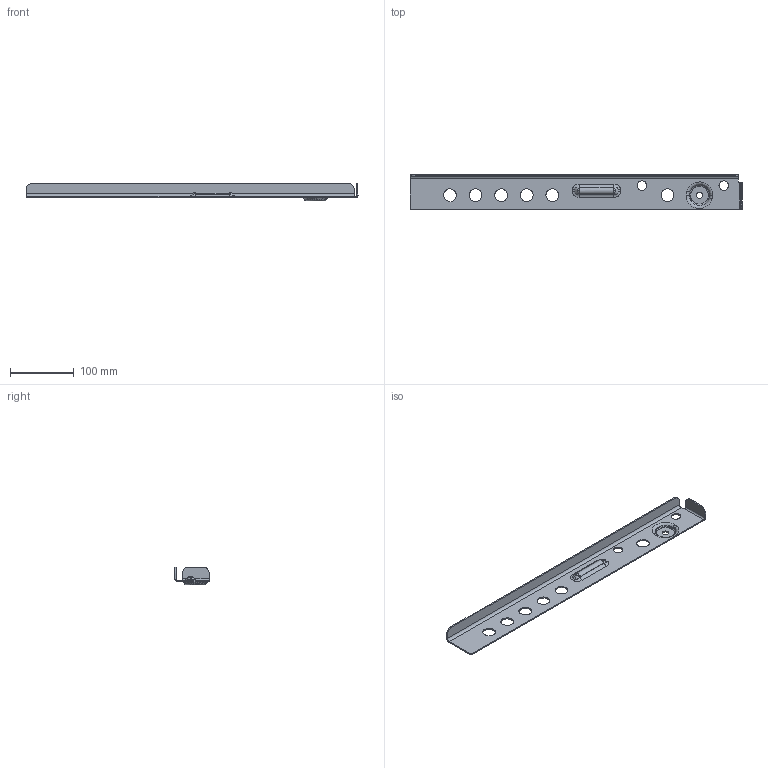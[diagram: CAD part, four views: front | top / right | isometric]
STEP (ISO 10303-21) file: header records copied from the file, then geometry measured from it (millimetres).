
FILE_DESCRIPTION(('CATIA V5 STEP Exchange'),'2;1');
FILE_NAME('D:\杨逍（新）\06-李燕龙\2023.1.9-G3新开件2D图纸-李燕龙\钣金单件图纸\SHT0015321-G3副司机座椅底支架左下板\SHT0015321.stp','2023-01-11T06:35:59+00:00',('none'),('none'),'CATIA Version 5 Release 20 GA (IN-10)','CATIA V5 STEP AP214','none');
FILE_SCHEMA(('AUTOMOTIVE_DESIGN { 1 0 10303 214 1 1 1 1 }'));
Length unit declared in the file: millimetre
Products named in the file (1): G3副司机座椅底支架左下板
Bounding box: 519 x 54 x 27.7 mm (x, y, z)
Volume: 72685.6 mm3; surface area: 76092.5 mm2
Topology: 1 solids, 1 shells, 113 faces, 286 edges, 171 vertices
Faces by surface type: cylinder 53, plane 22, torus 16, sphere 8, bspline 8, cone 6
Entity records: 9196 total; most frequent: CARTESIAN_POINT 6783, ORIENTED_EDGE 556, DIRECTION 355, EDGE_CURVE 278, VERTEX_POINT 171, AXIS2_PLACEMENT_3D 169, EDGE_LOOP 135, B_SPLINE_CURVE_WITH_KNOTS 121
